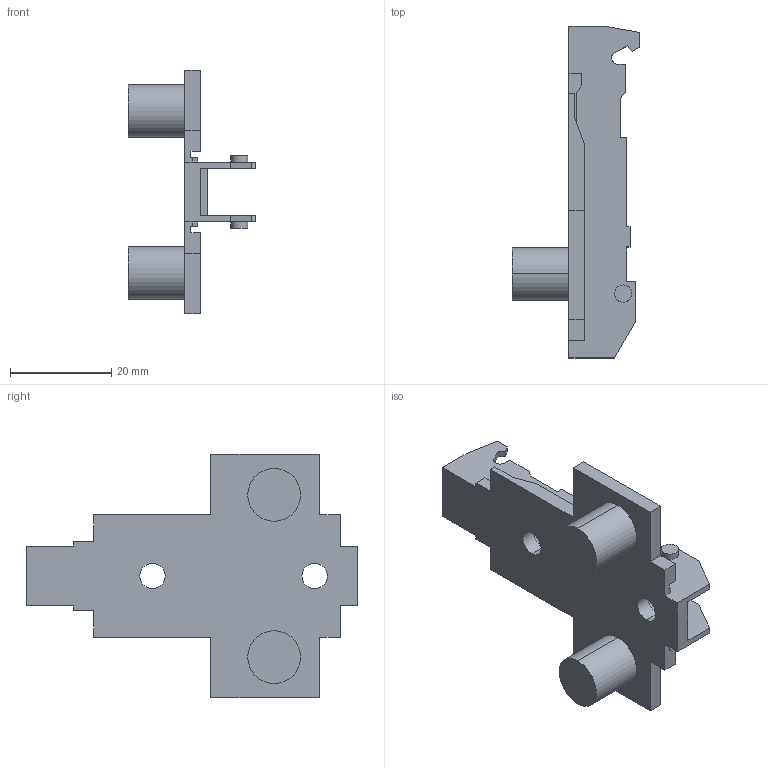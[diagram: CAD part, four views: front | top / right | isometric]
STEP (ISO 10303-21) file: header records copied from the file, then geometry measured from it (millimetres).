
FILE_DESCRIPTION (( 'STEP AP214' ), '1' );
FILE_NAME ('1D_Kreuzmontageplatte 28_32_10mm_Dübel_3,5.step', '2018-10-02T12:38:46', ( '' ), ( '' ), 'SwSTEP 2.0', 'SolidWorks 2017', '' );
FILE_SCHEMA (( 'AUTOMOTIVE_DESIGN' ));
Length unit declared in the file: millimetre
Products named in the file (1): 1D_Kreuzmontageplatte 28_32_10mm_Dübel_3,5
Bounding box: 25.2 x 65.5 x 48 mm (x, y, z)
Volume: 8592.2 mm3; surface area: 7799 mm2
Topology: 1 solids, 1 shells, 112 faces, 308 edges, 204 vertices
Faces by surface type: plane 86, cylinder 22, cone 4
Entity records: 3570 total; most frequent: CARTESIAN_POINT 625, ORIENTED_EDGE 616, DIRECTION 582, EDGE_CURVE 308, LINE 260, VECTOR 260, VERTEX_POINT 204, AXIS2_PLACEMENT_3D 161
